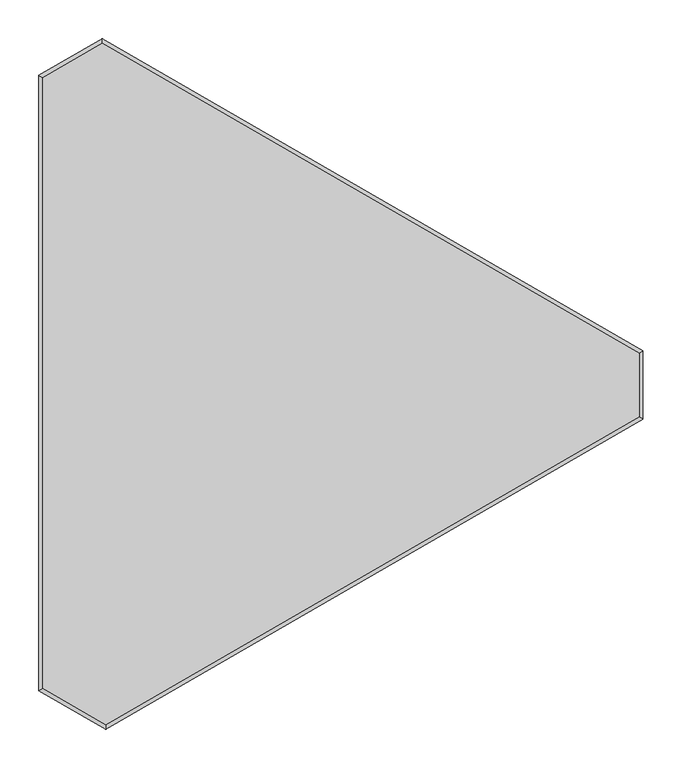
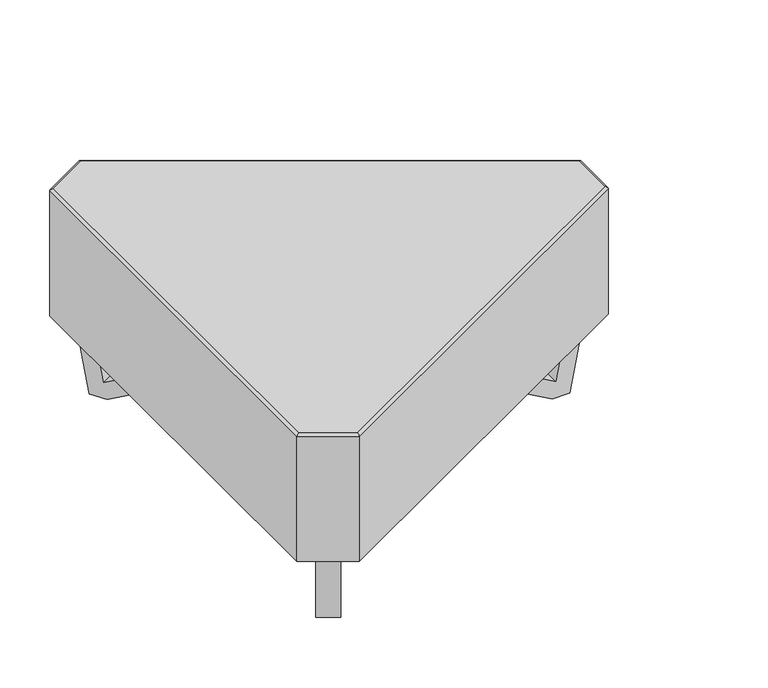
"""IFC4 building model written with IfcOpenShell, lengths in millimetres: furniture geometry, Furniture-Sofa-LyndonDesign-Us_US_13 : Furniture-Sofa-LyndonDesign-Us_US_13."""

from ifc_helpers import new_model, si_unit, frame, origin, place, context, project, spatial, polyline, ellipse_curve, outline, extrude, source, transform, mapped, element, save
from ifc_brep_helpers import plane_surface, cylinder_surface, advanced_brep


def furniture_84fadc13(model_context):
    return source(origin(), model_context, "Body", "SolidModel", [
        advanced_brep(
        [(776.4969658, 41.2350034, 400.0008635), (82.2504493, 442.0584165, 400.0008635), (5.0, 397.4578488, 400.0008635), (5.0, -392.4324869, 400.0008635), (86.6025404, -439.5457356, 400.0008635), (776.4969658, -41.2350034, 400.0008635), (0.0, -395.3192383, 150.0008635), (0.0, 400.3446002, 150.0008635), (82.2504493, 447.8319192, 150.0008635), (781.4969658, 44.1217547, 150.0008635), (781.4969658, -44.1217547, 150.0008635), (86.6025404, -445.3192383, 150.0008635), (86.6025404, -445.3192383, 395.0008635), (0.0, -395.3192383, 395.0008635), (781.4969658, -44.1217547, 395.0008635), (781.4969658, 44.1217547, 395.0008635), (82.2504493, 447.8319192, 395.0008635), (0.0, 400.3446002, 395.0008635)],
        [
            (0, 1),
            (1, 2),
            (2, 3),
            (3, 4),
            (4, 5),
            (5, 0),
            (6, 7),
            (7, 8),
            (8, 9),
            (9, 10),
            (10, 11),
            (11, 6),
            (11, 12),
            (12, 13),
            (13, 6),
            (10, 14),
            (14, 12),
            (9, 15),
            (15, 14),
            (8, 16),
            (16, 15),
            (7, 17),
            (17, 16),
            (13, 17),
            (16, 1, ellipse_curve(frame((82.2504493, 442.0584165, 395.0008635), z_axis=(1.0, 0.0, 0.0), x_axis=(0.0, 1.0, 0.0)), 5.7735027, 5.0)),
            (0, 15, ellipse_curve(frame((776.4969658, 41.2350034, 395.0008635), z_axis=(-0.4999999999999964, 0.8660254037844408, 0.0), x_axis=(-0.8660254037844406, -0.49999999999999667, 0.0)), 5.7735027, 5.0)),
            (17, 2, ellipse_curve(frame((5.0, 397.4578488, 395.0008635), z_axis=(0.500000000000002, 0.8660254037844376, 0.0), x_axis=(-0.8660254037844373, 0.5000000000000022, 0.0)), 5.7735027, 5.0)),
            (13, 3, ellipse_curve(frame((5.0, -392.4324869, 395.0008635), z_axis=(-0.4999999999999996, 0.8660254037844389, 0.0), x_axis=(-0.8660254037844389, -0.49999999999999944, 0.0)), 5.7735027, 5.0)),
            (12, 4, ellipse_curve(frame((86.6025404, -439.5457356, 395.0008635), z_axis=(-1.0, 0.0, 0.0), x_axis=(0.0, -1.0, 0.0)), 5.7735027, 5.0)),
            (14, 5, ellipse_curve(frame((776.4969658, -41.2350034, 395.0008635), z_axis=(-0.5000000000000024, -0.8660254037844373, 0.0), x_axis=(0.8660254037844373, -0.5000000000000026, 0.0)), 5.7735027, 5.0)),
        ],
        [
            plane_surface(frame((0.0, -395.3192383, 400.0008635), z_axis=(0.0, 0.0, 1.0000000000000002), x_axis=(0.8660254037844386, -0.5000000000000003, 0.0))),
            plane_surface(frame((0.0, -395.3192383, 150.0008635), z_axis=(0.0, 0.0, -1.0000000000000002), x_axis=(-0.8660254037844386, 0.5000000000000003, 0.0))),
            plane_surface(frame((0.0, -395.3192383, 400.0008635), z_axis=(-0.5000000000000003, -0.8660254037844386, 0.0), x_axis=(0.0, 0.0, -1.0))),
            plane_surface(frame((86.6025404, -445.3192383, 400.0008635), z_axis=(0.4999999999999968, -0.8660254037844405, 0.0), x_axis=(0.0, 0.0, -1.0))),
            plane_surface(frame((781.4969658, -44.1217547, 400.0008635), z_axis=(1.0, 0.0, 0.0), x_axis=(0.0, 0.0, -1.0))),
            plane_surface(frame((781.4969658, 44.1217547, 400.0008635), z_axis=(0.500000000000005, 0.8660254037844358, 0.0), x_axis=(0.0, 0.0, -1.0))),
            plane_surface(frame((82.2504493, 447.8319192, 400.0008635), z_axis=(-0.49999999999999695, 0.8660254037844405, 0.0), x_axis=(0.0, 0.0, -1.0))),
            plane_surface(frame((0.0, 400.3446002, 400.0008635), z_axis=(-1.0, 0.0, 0.0), x_axis=(0.0, 0.0, -1.0))),
            cylinder_surface(frame((778.9969658, 39.7916277, 395.0008635), z_axis=(-0.8660254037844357, 0.5000000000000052, 0.0), x_axis=(-0.5000000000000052, -0.8660254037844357, 0.0)), 5.0),
            cylinder_surface(frame((84.7504493, 443.5017922, 395.0008635), z_axis=(-0.8660254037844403, -0.4999999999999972, 0.0), x_axis=(0.4999999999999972, -0.8660254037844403, 0.0)), 5.0),
            cylinder_surface(frame((5.0, 400.3446002, 395.0008635), z_axis=(0.0, -1.0, 0.0), x_axis=(1.0, 0.0, 0.0)), 5.0),
            cylinder_surface(frame((2.5, -390.9891112, 395.0008635), z_axis=(0.8660254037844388, -0.4999999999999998, 0.0), x_axis=(0.4999999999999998, 0.8660254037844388, 0.0)), 5.0),
            cylinder_surface(frame((84.1025404, -440.9891112, 395.0008635), z_axis=(0.8660254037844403, 0.4999999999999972, 0.0), x_axis=(-0.4999999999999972, 0.8660254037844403, 0.0)), 5.0),
            cylinder_surface(frame((776.4969658, -44.1217547, 395.0008635), z_axis=(0.0, 1.0, 0.0), x_axis=(-1.0, 0.0, 0.0)), 5.0),
        ],
        [
            (0, [[1, 2, 3, 4, 5, 6]]),
            (1, [[7, 8, 9, 10, 11, 12]]),
            (2, [[-12, 13, 14, 15]]),
            (3, [[-11, 16, 17, -13]]),
            (4, [[-10, 18, 19, -16]]),
            (5, [[-9, 20, 21, -18]]),
            (6, [[-8, 22, 23, -20]]),
            (7, [[-7, -15, 24, -22]]),
            (8, [[25, -1, 26, -21]]),
            (9, [[-25, -23, 27, -2]]),
            (10, [[-27, -24, 28, -3]]),
            (11, [[-28, -14, 29, -4]]),
            (12, [[-29, -17, 30, -5]]),
            (13, [[-26, -6, -30, -19]]),
        ],
    ),
        extrude(outline(polyline([(-789.9948218, 0.0), (-757.4191255, 0.0), (-489.9930947, -150.0008635), (-818.850442, -150.0008635), (-789.9948218, 0.0)]), holes=[polyline([(-781.2350422, -124.0047668), (-599.5213446, -124.0047668), (-763.5634994, -31.992539), (-781.2350422, -124.0047668)])]), frame((453.2867844, -316.9473273, -0.0001929), z_axis=(0.8622114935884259, 0.506548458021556, 0.0), x_axis=(0.506548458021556, -0.8622114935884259, 0.0)), (0.0, 0.0, 1.0), 40.0),
        extrude(outline(polyline([(789.9948217, 0.0), (818.8504419, -150.0008635), (489.9930947, -150.0008635), (757.4191255, 0.0), (789.9948217, 0.0)]), holes=[polyline([(781.2350421, -124.0047668), (763.5634993, -31.992539), (599.5213446, -124.0047668), (781.2350421, -124.0047668)])]), frame((-66.2067705, -19.9999998, -0.010997), z_axis=(4.660512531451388e-10, 1.0, 0.0), x_axis=(1.0, -4.660512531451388e-10, 0.0)), (0.0, 0.0, 1.0), 40.0),
        extrude(outline(polyline([(-789.9948218, 0.0), (-757.4191256, 0.0), (-489.9930947, -150.0008636), (-818.850442, -150.0008636), (-789.9948218, 0.0)]), holes=[polyline([(-781.2350422, -124.0047668), (-599.5213447, -124.0047668), (-763.5634994, -31.992539), (-781.2350422, -124.0047668)])]), frame((487.630866, 301.8848633, -0.0002254), z_axis=(-0.8638354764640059, 0.5037740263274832, 0.0), x_axis=(0.5037740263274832, 0.8638354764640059, 0.0)), (0.0, 0.0, 1.0), 40.0),
    ])


if __name__ == "__main__":
    model = new_model("IFC4")
    model_context = context("Model", 3, world=origin())
    ifc_project = project(units=[si_unit("LENGTHUNIT", "METRE", prefix="MILLI")], contexts=[model_context])
    site = spatial("IfcSite", under=ifc_project)
    building = spatial("IfcBuilding", under=site)
    placement = place(None, origin())
    furniture_shape = furniture_84fadc13(model_context)
    element("IfcFurniture", 1, ObjectType="Furniture-Sofa-LyndonDesign-Us_US_13 : Furniture-Sofa-LyndonDesign-Us_US_13", at=placement, inside=building, context=model_context, shape_type="MappedRepresentation", body=[
        mapped(furniture_shape, transform((0.0, 0.0, 0.0), x_axis=(1.0, 0.0, 0.0), y_axis=(0.0, 1.0, 0.0), z_axis=(0.0, 0.0, 1.0))),
    ])
    save(model, "model.ifc")
